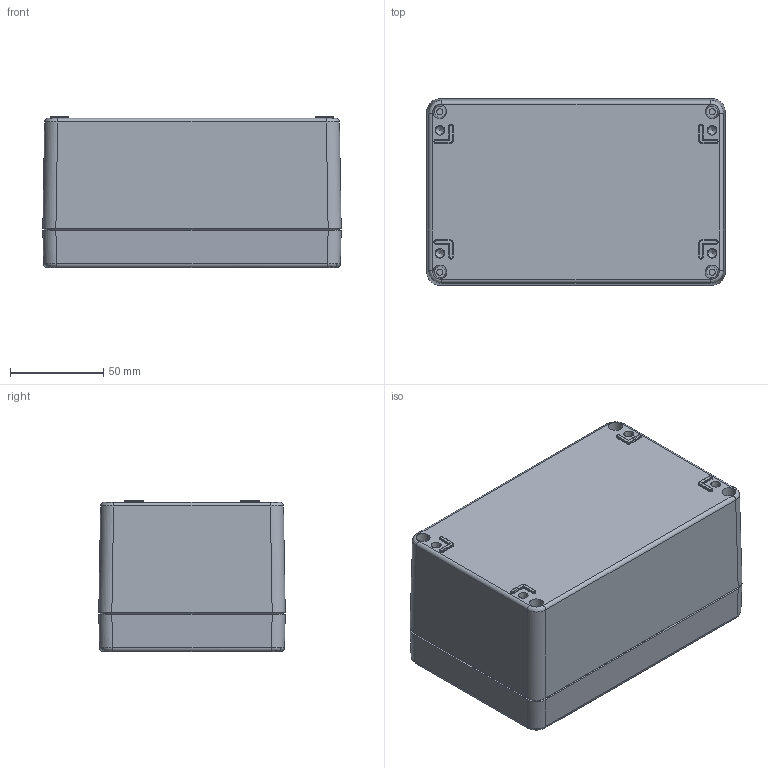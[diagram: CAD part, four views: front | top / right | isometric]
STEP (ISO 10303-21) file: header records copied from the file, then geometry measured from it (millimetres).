
FILE_DESCRIPTION(/* description */ (''),/* implementation_level */ '2;1');
FILE_NAME(/* name */ '1590Z125.stp',/* time_stamp */ '2025-11-27T14:09:54-05:00',/* author */ ('mbeerman'),/* organization */ (''),/* preprocessor_version */ 'ST-DEVELOPER v20.1',/* originating_system */ 'Autodesk Inventor 2026',/* authorisation */ '');
FILE_SCHEMA (('AUTOMOTIVE_DESIGN { 1 0 10303 214 3 1 1 }'));
Length unit declared in the file: millimetre
Products named in the file (5): 1590Z...1; 01156_160x100x81_stp.stp; lid_160x100x81_stp.stp; 1590Z...3 GASKET; SC583 (screw M4-0.7X 25mm PN)
Assembly tree (7 placements, depth 2):
  1590Z...1
    01156_160x100x81_stp.stp
    lid_160x100x81_stp.stp
    1590Z...3 GASKET
    SC583 (screw M4-0.7X 25mm PN)  x4
Bounding box: 160 x 100 x 81 mm (x, y, z)
Volume: 295320.9 mm3; surface area: 156116.7 mm2
Topology: 7 solids, 7 shells, 1221 faces, 3035 edges, 1930 vertices
Faces by surface type: plane 643, cylinder 279, cone 143, torus 77, bspline 71, sphere 8
Full cylindrical faces by diameter (mm): 3.242 x6, 3.3 x4, 3.48 x4, 3.582 x1, 3.85 x4, 5 x2, 5.2 x4, 5.32 x1, 6 x5, 6.9 x4
Entity records: 42391 total; most frequent: CARTESIAN_POINT 16413, ORIENTED_EDGE 5388, DIRECTION 5242, EDGE_CURVE 2694, AXIS2_PLACEMENT_3D 1812, VERTEX_POINT 1714, LINE 1618, VECTOR 1618
